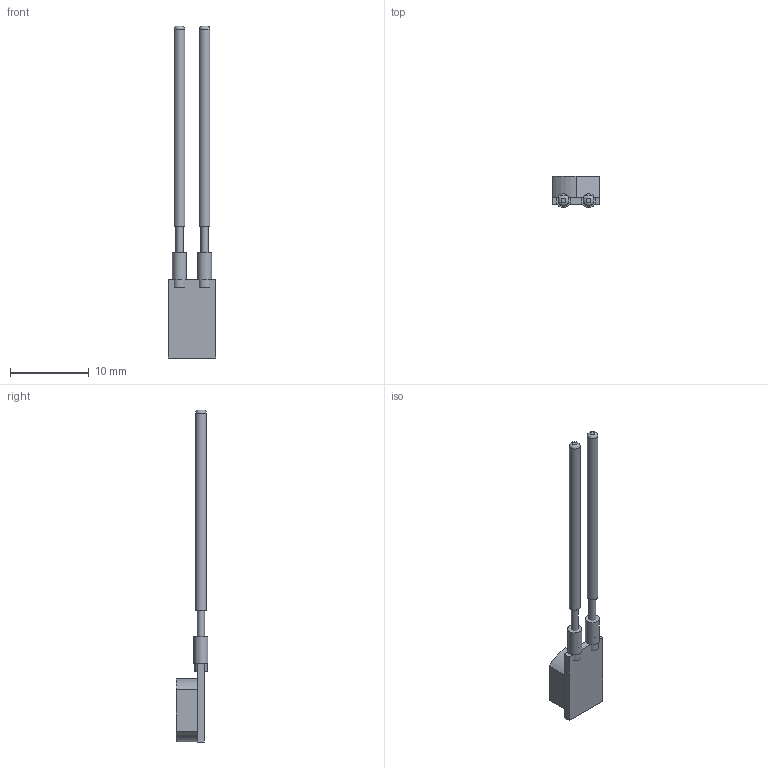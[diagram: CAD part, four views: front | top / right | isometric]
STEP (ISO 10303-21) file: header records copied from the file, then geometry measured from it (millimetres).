
FILE_DESCRIPTION(/* description */ (''),/* implementation_level */ '2;1');
FILE_NAME(/* name */ 'C:/Users/sorto/Downloads/FINN_VERT_IR.step',/* time_stamp */ '2020-10-08T23:14:28-05:00',/* author */ (''),/* organization */ (''),/* preprocessor_version */ 'ST-DEVELOPER v18.1',/* originating_system */ 'Autodesk Translation Framework v9.3.0.1241',/* authorisation */ '');
FILE_SCHEMA (('AUTOMOTIVE_DESIGN { 1 0 10303 214 3 1 1 }'));
Length unit declared in the file: inch
Products named in the file (1): FINN
Bounding box: 6 x 4.04 x 42.11 mm (x, y, z)
Volume: 267.9 mm3; surface area: 633.3 mm2
Topology: 6 solids, 6 shells, 48 faces, 87 edges, 56 vertices
Faces by surface type: plane 34, cylinder 12, bspline 2
Full cylindrical faces by diameter (mm): 0.914 x2, 1.367 x2, 1.575 x2, 1.778 x2
Entity records: 1260 total; most frequent: CARTESIAN_POINT 244, DIRECTION 209, ORIENTED_EDGE 174, EDGE_CURVE 87, AXIS2_PLACEMENT_3D 75, LINE 59, VECTOR 59, VERTEX_POINT 56
